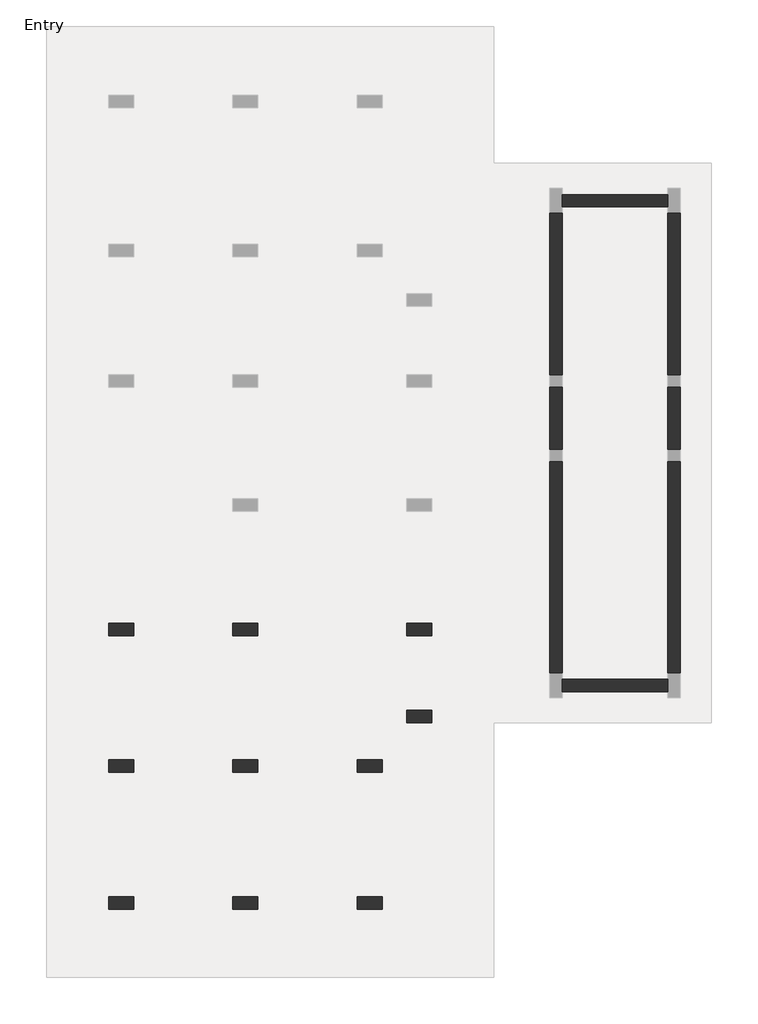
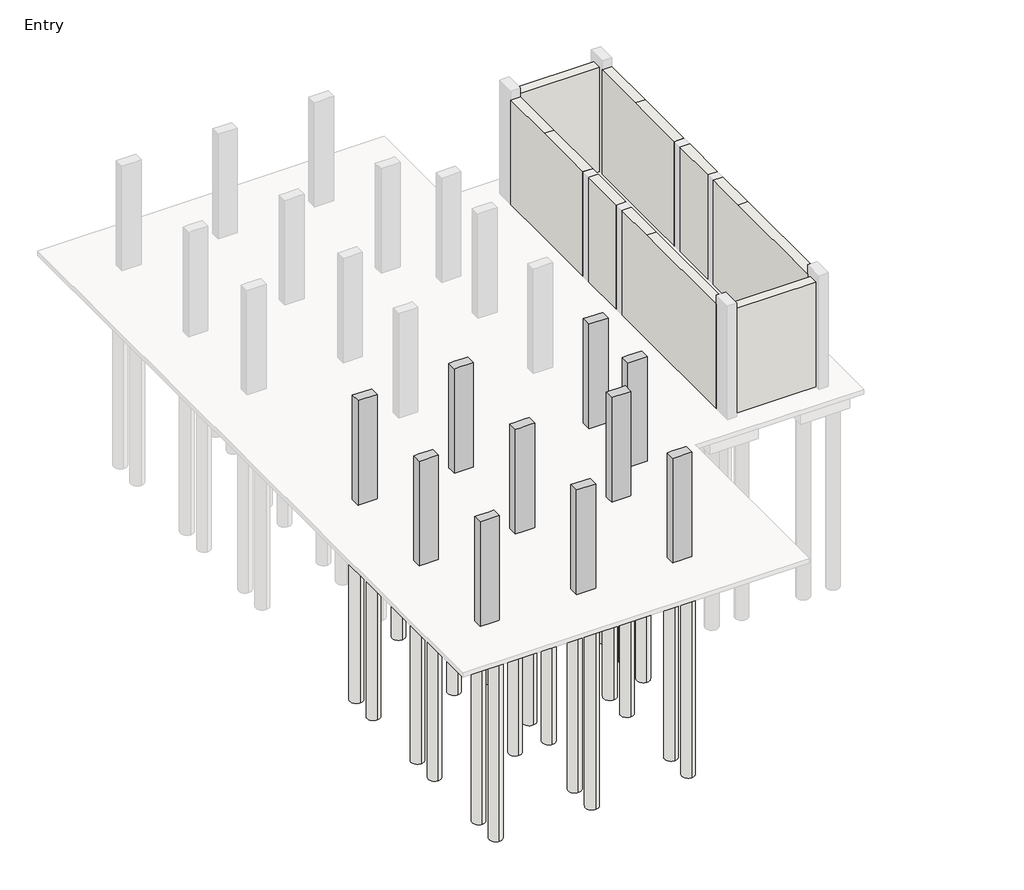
# One storey, part 1 of 3: 34 slabs, 10 columns, 8 walls.
"""IFC4 building model written with IfcOpenShell, lengths in millimetres."""

from ifc_helpers import new_model, si_unit, point, frame, frame_2d, origin, origin_with_axes, place, context, project, spatial, polyline, circle_curve, trimmed, segment, composite_curve, outline, extrude, faceted_brep, element, save

model = new_model("IFC4")

# Units and contexts
model_context = context("Model", 3, world=origin())
ifc_project = project(units=[si_unit("LENGTHUNIT", "METRE", prefix="MILLI")], contexts=[model_context])

# Site, building, storey
site = spatial("IfcSite", under=ifc_project)
building = spatial("IfcBuilding", under=site)
storey = spatial("IfcBuildingStorey", under=building, Name="Entry", Elevation=0.0)

# Columns
placement = place(None, origin())
element("IfcColumn", 1, ObjectType="Concrete-Rectangular-Column : 12 x 24", at=placement, inside=storey, context=model_context, shape_type="Brep", body=[
    faceted_brep([(-15967.1663981, -2679.8512152, 0.0), (-15357.5663981, -2679.8512152, 0.0), (-15357.5663981, -2984.6512152, 0.0), (-15967.1663981, -2984.6512152, 0.0), (-15967.1663981, -2679.8512152, 3505.2), (-15357.5663981, -2679.8512152, 3505.2), (-15357.5663981, -2679.8512152, 2895.6), (-15357.5663981, -2984.6512152, 3505.2), (-15357.5663981, -2984.6512152, 2895.6), (-15509.9663981, -2984.6512152, 3505.2), (-15814.7663981, -2984.6512152, 3505.2), (-15967.1663981, -2984.6512152, 3505.2)], [[[0, 1, 2, 3]], [[4, 5, 6, 1, 0]], [[5, 7, 8, 2, 1, 6]], [[7, 9, 10, 11, 3, 2, 8]], [[11, 4, 0, 3]], [[4, 11, 10, 9, 7, 5]]]),
])
element("IfcColumn", 2, ObjectType="Concrete-Rectangular-Column : 12 x 24", at=placement, inside=storey, context=model_context, shape_type="Brep", body=[
    faceted_brep([(-15967.1663981, -6032.6512152, 0.0), (-15357.5663981, -6032.6512152, 0.0), (-15357.5663981, -6337.4512152, 0.0), (-15967.1663981, -6337.4512152, 0.0), (-15967.1663981, -6032.6512152, 3505.2), (-15814.7663981, -6032.6512152, 3505.2), (-15509.9663981, -6032.6512152, 3505.2), (-15357.5663981, -6032.6512152, 3505.2), (-15357.5663981, -6032.6512152, 2895.6), (-15357.5663981, -6337.4512152, 3505.2), (-15357.5663981, -6337.4512152, 2895.6), (-15509.9663981, -6337.4512152, 3505.2), (-15814.7663981, -6337.4512152, 3505.2), (-15967.1663981, -6337.4512152, 3505.2)], [[[0, 1, 2, 3]], [[4, 5, 6, 7, 8, 1, 0]], [[7, 9, 10, 2, 1, 8]], [[9, 11, 12, 13, 3, 2, 10]], [[13, 4, 0, 3]], [[4, 13, 12, 11, 9, 7, 6, 5]]]),
])
element("IfcColumn", 3, ObjectType="Concrete-Rectangular-Column : 12 x 24", at=placement, inside=storey, context=model_context, shape_type="Brep", body=[
    faceted_brep([(-15967.1663981, -9385.4512152, 0.0), (-15357.5663981, -9385.4512152, 0.0), (-15357.5663981, -9690.2512152, 0.0), (-15967.1663981, -9690.2512152, 0.0), (-15967.1663981, -9385.4512152, 3505.2), (-15814.7663981, -9385.4512152, 3505.2), (-15509.9663981, -9385.4512152, 3505.2), (-15357.5663981, -9385.4512152, 3505.2), (-15357.5663981, -9385.4512152, 2895.6), (-15357.5663981, -9690.2512152, 3505.2), (-15357.5663981, -9690.2512152, 2895.6), (-15967.1663981, -9690.2512152, 3505.2)], [[[0, 1, 2, 3]], [[4, 5, 6, 7, 8, 1, 0]], [[7, 9, 10, 2, 1, 8]], [[9, 11, 3, 2, 10]], [[11, 4, 0, 3]], [[4, 11, 9, 7, 6, 5]]]),
])
element("IfcColumn", 4, ObjectType="Concrete-Rectangular-Column : 12 x 24", at=placement, inside=storey, context=model_context, shape_type="Brep", body=[
    faceted_brep([(-12919.1663981, -9385.4512152, 0.0), (-12309.5663981, -9385.4512152, 0.0), (-12309.5663981, -9690.2512152, 0.0), (-12919.1663981, -9690.2512152, 0.0), (-12919.1663981, -9385.4512152, 3505.2), (-12766.7663981, -9385.4512152, 3505.2), (-12461.9663981, -9385.4512152, 3505.2), (-12309.5663981, -9385.4512152, 3505.2), (-12309.5663981, -9385.4512152, 2895.6), (-12919.1663981, -9385.4512152, 2895.6), (-12309.5663981, -9690.2512152, 3505.2), (-12309.5663981, -9690.2512152, 2895.6), (-12919.1663981, -9690.2512152, 3505.2), (-12919.1663981, -9690.2512152, 2895.6)], [[[0, 1, 2, 3]], [[4, 5, 6, 7, 8, 1, 0, 9]], [[7, 10, 11, 2, 1, 8]], [[10, 12, 13, 3, 2, 11]], [[12, 4, 9, 0, 3, 13]], [[4, 12, 10, 7, 6, 5]]]),
])
element("IfcColumn", 5, ObjectType="Concrete-Rectangular-Column : 12 x 24", at=placement, inside=storey, context=model_context, shape_type="Brep", body=[
    faceted_brep([(-12919.1663981, -6032.6512152, 0.0), (-12309.5663981, -6032.6512152, 0.0), (-12309.5663981, -6337.4512152, 0.0), (-12919.1663981, -6337.4512152, 0.0), (-12919.1663981, -6032.6512152, 3505.2), (-12766.7663981, -6032.6512152, 3505.2), (-12461.9663981, -6032.6512152, 3505.2), (-12309.5663981, -6032.6512152, 3505.2), (-12309.5663981, -6032.6512152, 2895.6), (-12919.1663981, -6032.6512152, 2895.6), (-12309.5663981, -6337.4512152, 3505.2), (-12309.5663981, -6337.4512152, 2895.6), (-12461.9663981, -6337.4512152, 3505.2), (-12766.7663981, -6337.4512152, 3505.2), (-12919.1663981, -6337.4512152, 3505.2), (-12919.1663981, -6337.4512152, 2895.6)], [[[0, 1, 2, 3]], [[4, 5, 6, 7, 8, 1, 0, 9]], [[7, 10, 11, 2, 1, 8]], [[10, 12, 13, 14, 15, 3, 2, 11]], [[14, 4, 9, 0, 3, 15]], [[4, 14, 13, 12, 10, 7, 6, 5]]]),
])
element("IfcColumn", 6, ObjectType="Concrete-Rectangular-Column : 12 x 24", at=placement, inside=storey, context=model_context, shape_type="Brep", body=[
    faceted_brep([(-12919.1663981, -2679.8512152, 0.0), (-12309.5663981, -2679.8512152, 0.0), (-12309.5663981, -2984.6512152, 0.0), (-12919.1663981, -2984.6512152, 0.0), (-12919.1663981, -2679.8512152, 3505.2), (-12766.7663981, -2679.8512152, 3505.2), (-12461.9663981, -2679.8512152, 3505.2), (-12309.5663981, -2679.8512152, 3505.2), (-12309.5663981, -2679.8512152, 2895.6), (-12919.1663981, -2679.8512152, 2895.6), (-12309.5663981, -2984.6512152, 3505.2), (-12309.5663981, -2984.6512152, 2895.6), (-12461.9663981, -2984.6512152, 3505.2), (-12766.7663981, -2984.6512152, 3505.2), (-12919.1663981, -2984.6512152, 3505.2), (-12919.1663981, -2984.6512152, 2895.6)], [[[0, 1, 2, 3]], [[4, 5, 6, 7, 8, 1, 0, 9]], [[7, 10, 11, 2, 1, 8]], [[10, 12, 13, 14, 15, 3, 2, 11]], [[14, 4, 9, 0, 3, 15]], [[4, 14, 13, 12, 10, 7, 6, 5]]]),
])
element("IfcColumn", 7, ObjectType="Concrete-Rectangular-Column : 12 x 24", at=placement, inside=storey, context=model_context, shape_type="Brep", body=[
    faceted_brep([(-8651.9663981, -2679.8512152, 0.0), (-8042.3663981, -2679.8512152, 0.0), (-8042.3663981, -2984.6512152, 0.0), (-8651.9663981, -2984.6512152, 0.0), (-8651.9663981, -2679.8512152, 3505.2), (-8499.5663981, -2679.8512152, 3505.2), (-8194.7663981, -2679.8512152, 3505.2), (-8042.3663981, -2679.8512152, 3505.2), (-8651.9663981, -2679.8512152, 2895.6), (-8042.3663981, -2984.6512152, 3505.2), (-8194.7663981, -2984.6512152, 3505.2), (-8499.5663981, -2984.6512152, 3505.2), (-8651.9663981, -2984.6512152, 3505.2), (-8651.9663981, -2984.6512152, 2895.6)], [[[0, 1, 2, 3]], [[4, 5, 6, 7, 1, 0, 8]], [[7, 9, 2, 1]], [[9, 10, 11, 12, 13, 3, 2]], [[12, 4, 8, 0, 3, 13]], [[4, 12, 11, 10, 9, 7, 6, 5]]]),
])
element("IfcColumn", 8, ObjectType="Concrete-Rectangular-Column : 12 x 24", at=placement, inside=storey, context=model_context, shape_type="Brep", body=[
    faceted_brep([(-8651.9663981, -4813.4512152, 0.0), (-8042.3663981, -4813.4512152, 0.0), (-8042.3663981, -5118.2512152, 0.0), (-8651.9663981, -5118.2512152, 0.0), (-8651.9663981, -4813.4512152, 3505.2), (-8499.5663981, -4813.4512152, 3505.2), (-8194.7663981, -4813.4512152, 3505.2), (-8042.3663981, -4813.4512152, 3505.2), (-8651.9663981, -4813.4512152, 2895.6), (-8042.3663981, -5118.2512152, 3505.2), (-8651.9663981, -5118.2512152, 3505.2), (-8651.9663981, -5118.2512152, 2895.6)], [[[0, 1, 2, 3]], [[4, 5, 6, 7, 1, 0, 8]], [[7, 9, 2, 1]], [[9, 10, 11, 3, 2]], [[10, 4, 8, 0, 3, 11]], [[4, 10, 9, 7, 6, 5]]]),
])
element("IfcColumn", 9, ObjectType="Concrete-Rectangular-Column : 12 x 24", at=placement, inside=storey, context=model_context, shape_type="Brep", body=[
    faceted_brep([(-9261.5663981, -6337.4512152, 0.0), (-9871.1663981, -6337.4512152, 0.0), (-9871.1663981, -6032.6512152, 0.0), (-9261.5663981, -6032.6512152, 0.0), (-9261.5663981, -6337.4512152, 3505.2), (-9413.9663981, -6337.4512152, 3505.2), (-9718.7663981, -6337.4512152, 3505.2), (-9871.1663981, -6337.4512152, 3505.2), (-9871.1663981, -6337.4512152, 2895.6), (-9871.1663981, -6032.6512152, 3505.2), (-9871.1663981, -6032.6512152, 2895.6), (-9718.7663981, -6032.6512152, 3505.2), (-9413.9663981, -6032.6512152, 3505.2), (-9261.5663981, -6032.6512152, 3505.2)], [[[0, 1, 2, 3]], [[4, 5, 6, 7, 8, 1, 0]], [[7, 9, 10, 2, 1, 8]], [[9, 11, 12, 13, 3, 2, 10]], [[13, 4, 0, 3]], [[4, 13, 12, 11, 9, 7, 6, 5]]]),
])
element("IfcColumn", 10, ObjectType="Concrete-Rectangular-Column : 12 x 24", at=placement, inside=storey, context=model_context, shape_type="Brep", body=[
    faceted_brep([(-9261.5663981, -9690.2512152, 0.0), (-9871.1663981, -9690.2512152, 0.0), (-9871.1663981, -9385.4512152, 0.0), (-9261.5663981, -9385.4512152, 0.0), (-9261.5663981, -9690.2512152, 3505.2), (-9871.1663981, -9690.2512152, 3505.2), (-9871.1663981, -9690.2512152, 2895.6), (-9871.1663981, -9385.4512152, 3505.2), (-9871.1663981, -9385.4512152, 2895.6), (-9718.7663981, -9385.4512152, 3505.2), (-9413.9663981, -9385.4512152, 3505.2), (-9261.5663981, -9385.4512152, 3505.2)], [[[0, 1, 2, 3]], [[4, 5, 6, 1, 0]], [[5, 7, 8, 2, 1, 6]], [[7, 9, 10, 11, 3, 2, 8]], [[11, 4, 0, 3]], [[4, 11, 10, 9, 7, 5]]]),
])

# Slabs
element("IfcSlab", 11, ObjectType="Pile Cap-2 Pile : 31\"x61\"x35\"", at=placement, inside=storey, context=model_context, shape_type="SweptSolid", body=[
    extrude(outline(polyline([(-16068.7663981, -2057.5512152), (-15255.9663981, -2057.5512152), (-15255.9663981, -3606.9512152), (-16068.7663981, -3606.9512152), (-16068.7663981, -2057.5512152)])), frame((0.0, 0.0, -889.0), z_axis=(0.0, 0.0, 1.0), x_axis=(1.0, 0.0, 0.0)), (0.0, 0.0, 1.0), 736.6),
])
element("IfcSlab", 12, ObjectType="Pile Cap-2 Pile : 31\"x61\"x35\"", at=placement, inside=storey, context=model_context, shape_type="SweptSolid", body=[
    extrude(outline(polyline([(-16068.7663981, -5410.3512152), (-15255.9663981, -5410.3512152), (-15255.9663981, -6959.7512152), (-16068.7663981, -6959.7512152), (-16068.7663981, -5410.3512152)])), frame((0.0, 0.0, -889.0), z_axis=(0.0, 0.0, 1.0), x_axis=(1.0, 0.0, 0.0)), (0.0, 0.0, 1.0), 736.6),
])
element("IfcSlab", 13, ObjectType="Pile Cap-2 Pile : 31\"x61\"x35\"", at=placement, inside=storey, context=model_context, shape_type="SweptSolid", body=[
    extrude(outline(polyline([(-16068.7663981, -8763.1512152), (-15255.9663981, -8763.1512152), (-15255.9663981, -10312.5512152), (-16068.7663981, -10312.5512152), (-16068.7663981, -8763.1512152)])), frame((0.0, 0.0, -889.0), z_axis=(0.0, 0.0, 1.0), x_axis=(1.0, 0.0, 0.0)), (0.0, 0.0, 1.0), 736.6),
])
element("IfcSlab", 14, ObjectType="Pile Cap-2 Pile : 31\"x61\"x35\"", at=placement, inside=storey, context=model_context, shape_type="SweptSolid", body=[
    extrude(outline(polyline([(-13020.7663981, -8763.1512152), (-12207.9663981, -8763.1512152), (-12207.9663981, -10312.5512152), (-13020.7663981, -10312.5512152), (-13020.7663981, -8763.1512152)])), frame((0.0, 0.0, -889.0), z_axis=(0.0, 0.0, 1.0), x_axis=(1.0, 0.0, 0.0)), (0.0, 0.0, 1.0), 736.6),
])
element("IfcSlab", 15, ObjectType="Pile Cap-2 Pile : 31\"x61\"x35\"", at=placement, inside=storey, context=model_context, shape_type="SweptSolid", body=[
    extrude(outline(polyline([(-9159.9663981, -6959.7512152), (-9972.7663981, -6959.7512152), (-9972.7663981, -5410.3512152), (-9159.9663981, -5410.3512152), (-9159.9663981, -6959.7512152)])), frame((0.0, 0.0, -889.0), z_axis=(0.0, 0.0, 1.0), x_axis=(1.0, 0.0, 0.0)), (0.0, 0.0, 1.0), 736.6),
])
element("IfcSlab", 16, ObjectType="Pile Cap-2 Pile : 31\"x61\"x35\"", at=placement, inside=storey, context=model_context, shape_type="SweptSolid", body=[
    extrude(outline(polyline([(-9159.9663981, -10312.5512152), (-9972.7663981, -10312.5512152), (-9972.7663981, -8763.1512152), (-9159.9663981, -8763.1512152), (-9159.9663981, -10312.5512152)])), frame((0.0, 0.0, -889.0), z_axis=(0.0, 0.0, 1.0), x_axis=(1.0, 0.0, 0.0)), (0.0, 0.0, 1.0), 736.6),
])
element("IfcSlab", 17, ObjectType="Pile Cap-2 Pile : 31\"x61\"x35\"", at=placement, inside=storey, context=model_context, shape_type="SweptSolid", body=[
    extrude(outline(polyline([(-8753.5663981, -4191.1512152), (-7940.7663981, -4191.1512152), (-7940.7663981, -5740.5512152), (-8753.5663981, -5740.5512152), (-8753.5663981, -4191.1512152)])), frame((0.0, 0.0, -889.0), z_axis=(0.0, 0.0, 1.0), x_axis=(1.0, 0.0, 0.0)), (0.0, 0.0, 1.0), 736.6),
])
element("IfcSlab", 18, ObjectType="Pile Cap-4 Pile : 72\"x72\"x35\"", at=placement, inside=storey, context=model_context, shape_type="SweptSolid", body=[
    extrude(outline(polyline([(-13528.7663981, -1917.8512152), (-11699.9663981, -1917.8512152), (-11699.9663981, -3746.6512152), (-13528.7663981, -3746.6512152), (-13528.7663981, -1917.8512152)])), frame((0.0, 0.0, -889.0), z_axis=(0.0, 0.0, 1.0), x_axis=(1.0, 0.0, 0.0)), (0.0, 0.0, 1.0), 736.6),
])
element("IfcSlab", 19, ObjectType="Pile Cap-4 Pile : 72\"x72\"x35\"", at=placement, inside=storey, context=model_context, shape_type="SweptSolid", body=[
    extrude(outline(polyline([(-13528.7663981, -5270.6512152), (-11699.9663981, -5270.6512152), (-11699.9663981, -7099.4512152), (-13528.7663981, -7099.4512152), (-13528.7663981, -5270.6512152)])), frame((0.0, 0.0, -889.0), z_axis=(0.0, 0.0, 1.0), x_axis=(1.0, 0.0, 0.0)), (0.0, 0.0, 1.0), 736.6),
])
element("IfcSlab", 20, ObjectType="Pile-Steel Pipe : 16\" Diameter", at=placement, inside=storey, context=model_context, shape_type="SweptSolid", body=[
    extrude(outline(composite_curve([segment(trimmed(circle_curve(frame_2d((-13147.7663981, -317.6512152)), 203.2), [point((-13147.7663981, -520.8512152))], [point((-13147.7663981, -114.4512152))], False, "CARTESIAN"), True, "CONTINUOUS"), segment(trimmed(circle_curve(frame_2d((-13147.7663981, -317.6512152)), 203.2), [point((-13147.7663981, -114.4512152))], [point((-13147.7663981, -520.8512152))], False, "CARTESIAN"), True, "CONTINUOUS")], self_intersect=False)), frame((0.0, 0.0, -6985.0), z_axis=(0.0, 0.0, 1.0), x_axis=(1.0, 0.0, 0.0)), (0.0, 0.0, 1.0), 6096.0),
])
element("IfcSlab", 21, ObjectType="Pile-Steel Pipe : 16\" Diameter", at=placement, inside=storey, context=model_context, shape_type="SweptSolid", body=[
    extrude(outline(composite_curve([segment(trimmed(circle_curve(frame_2d((-12080.9663981, -317.6512152)), 203.2), [point((-12080.9663981, -520.8512152))], [point((-12080.9663981, -114.4512152))], False, "CARTESIAN"), True, "CONTINUOUS"), segment(trimmed(circle_curve(frame_2d((-12080.9663981, -317.6512152)), 203.2), [point((-12080.9663981, -114.4512152))], [point((-12080.9663981, -520.8512152))], False, "CARTESIAN"), True, "CONTINUOUS")], self_intersect=False)), frame((0.0, 0.0, -6985.0), z_axis=(0.0, 0.0, 1.0), x_axis=(1.0, 0.0, 0.0)), (0.0, 0.0, 1.0), 6096.0),
])
element("IfcSlab", 22, ObjectType="Pile-Steel Pipe : 16\" Diameter", at=placement, inside=storey, context=model_context, shape_type="SweptSolid", body=[
    extrude(outline(composite_curve([segment(trimmed(circle_curve(frame_2d((-13147.7663981, -3365.6512152)), 203.2), [point((-13147.7663981, -3568.8512152))], [point((-13147.7663981, -3162.4512152))], False, "CARTESIAN"), True, "CONTINUOUS"), segment(trimmed(circle_curve(frame_2d((-13147.7663981, -3365.6512152)), 203.2), [point((-13147.7663981, -3162.4512152))], [point((-13147.7663981, -3568.8512152))], False, "CARTESIAN"), True, "CONTINUOUS")], self_intersect=False)), frame((0.0, 0.0, -6985.0), z_axis=(0.0, 0.0, 1.0), x_axis=(1.0, 0.0, 0.0)), (0.0, 0.0, 1.0), 6096.0),
])
element("IfcSlab", 23, ObjectType="Pile-Steel Pipe : 16\" Diameter", at=placement, inside=storey, context=model_context, shape_type="SweptSolid", body=[
    extrude(outline(composite_curve([segment(trimmed(circle_curve(frame_2d((-12080.9663981, -3365.6512152)), 203.2), [point((-12080.9663981, -3568.8512152))], [point((-12080.9663981, -3162.4512152))], False, "CARTESIAN"), True, "CONTINUOUS"), segment(trimmed(circle_curve(frame_2d((-12080.9663981, -3365.6512152)), 203.2), [point((-12080.9663981, -3162.4512152))], [point((-12080.9663981, -3568.8512152))], False, "CARTESIAN"), True, "CONTINUOUS")], self_intersect=False)), frame((0.0, 0.0, -6985.0), z_axis=(0.0, 0.0, 1.0), x_axis=(1.0, 0.0, 0.0)), (0.0, 0.0, 1.0), 6096.0),
])
element("IfcSlab", 24, ObjectType="Pile-Steel Pipe : 16\" Diameter", at=placement, inside=storey, context=model_context, shape_type="SweptSolid", body=[
    extrude(outline(composite_curve([segment(trimmed(circle_curve(frame_2d((-12080.9663981, -2298.8512152)), 203.2), [point((-12080.9663981, -2502.0512152))], [point((-12080.9663981, -2095.6512152))], False, "CARTESIAN"), True, "CONTINUOUS"), segment(trimmed(circle_curve(frame_2d((-12080.9663981, -2298.8512152)), 203.2), [point((-12080.9663981, -2095.6512152))], [point((-12080.9663981, -2502.0512152))], False, "CARTESIAN"), True, "CONTINUOUS")], self_intersect=False)), frame((0.0, 0.0, -6985.0), z_axis=(0.0, 0.0, 1.0), x_axis=(1.0, 0.0, 0.0)), (0.0, 0.0, 1.0), 6096.0),
])
element("IfcSlab", 25, ObjectType="Pile-Steel Pipe : 16\" Diameter", at=placement, inside=storey, context=model_context, shape_type="SweptSolid", body=[
    extrude(outline(composite_curve([segment(trimmed(circle_curve(frame_2d((-13147.7663981, -2298.8512152)), 203.2), [point((-13147.7663981, -2502.0512152))], [point((-13147.7663981, -2095.6512152))], False, "CARTESIAN"), True, "CONTINUOUS"), segment(trimmed(circle_curve(frame_2d((-13147.7663981, -2298.8512152)), 203.2), [point((-13147.7663981, -2095.6512152))], [point((-13147.7663981, -2502.0512152))], False, "CARTESIAN"), True, "CONTINUOUS")], self_intersect=False)), frame((0.0, 0.0, -6985.0), z_axis=(0.0, 0.0, 1.0), x_axis=(1.0, 0.0, 0.0)), (0.0, 0.0, 1.0), 6096.0),
])
element("IfcSlab", 26, ObjectType="Pile-Steel Pipe : 16\" Diameter", at=placement, inside=storey, context=model_context, shape_type="SweptSolid", body=[
    extrude(outline(composite_curve([segment(trimmed(circle_curve(frame_2d((-13147.7663981, -6718.4512152)), 203.2), [point((-13147.7663981, -6921.6512152))], [point((-13147.7663981, -6515.2512152))], False, "CARTESIAN"), True, "CONTINUOUS"), segment(trimmed(circle_curve(frame_2d((-13147.7663981, -6718.4512152)), 203.2), [point((-13147.7663981, -6515.2512152))], [point((-13147.7663981, -6921.6512152))], False, "CARTESIAN"), True, "CONTINUOUS")], self_intersect=False)), frame((0.0, 0.0, -6985.0), z_axis=(0.0, 0.0, 1.0), x_axis=(1.0, 0.0, 0.0)), (0.0, 0.0, 1.0), 6096.0),
])
element("IfcSlab", 27, ObjectType="Pile-Steel Pipe : 16\" Diameter", at=placement, inside=storey, context=model_context, shape_type="SweptSolid", body=[
    extrude(outline(composite_curve([segment(trimmed(circle_curve(frame_2d((-12080.9663981, -6718.4512152)), 203.2), [point((-12080.9663981, -6921.6512152))], [point((-12080.9663981, -6515.2512152))], False, "CARTESIAN"), True, "CONTINUOUS"), segment(trimmed(circle_curve(frame_2d((-12080.9663981, -6718.4512152)), 203.2), [point((-12080.9663981, -6515.2512152))], [point((-12080.9663981, -6921.6512152))], False, "CARTESIAN"), True, "CONTINUOUS")], self_intersect=False)), frame((0.0, 0.0, -6985.0), z_axis=(0.0, 0.0, 1.0), x_axis=(1.0, 0.0, 0.0)), (0.0, 0.0, 1.0), 6096.0),
])
element("IfcSlab", 28, ObjectType="Pile-Steel Pipe : 16\" Diameter", at=placement, inside=storey, context=model_context, shape_type="SweptSolid", body=[
    extrude(outline(composite_curve([segment(trimmed(circle_curve(frame_2d((-12080.9663981, -5651.6512152)), 203.2), [point((-12080.9663981, -5854.8512152))], [point((-12080.9663981, -5448.4512152))], False, "CARTESIAN"), True, "CONTINUOUS"), segment(trimmed(circle_curve(frame_2d((-12080.9663981, -5651.6512152)), 203.2), [point((-12080.9663981, -5448.4512152))], [point((-12080.9663981, -5854.8512152))], False, "CARTESIAN"), True, "CONTINUOUS")], self_intersect=False)), frame((0.0, 0.0, -6985.0), z_axis=(0.0, 0.0, 1.0), x_axis=(1.0, 0.0, 0.0)), (0.0, 0.0, 1.0), 6096.0),
])
element("IfcSlab", 29, ObjectType="Pile-Steel Pipe : 16\" Diameter", at=placement, inside=storey, context=model_context, shape_type="SweptSolid", body=[
    extrude(outline(composite_curve([segment(trimmed(circle_curve(frame_2d((-13147.7663981, -5651.6512152)), 203.2), [point((-13147.7663981, -5854.8512152))], [point((-13147.7663981, -5448.4512152))], False, "CARTESIAN"), True, "CONTINUOUS"), segment(trimmed(circle_curve(frame_2d((-13147.7663981, -5651.6512152)), 203.2), [point((-13147.7663981, -5448.4512152))], [point((-13147.7663981, -5854.8512152))], False, "CARTESIAN"), True, "CONTINUOUS")], self_intersect=False)), frame((0.0, 0.0, -6985.0), z_axis=(0.0, 0.0, 1.0), x_axis=(1.0, 0.0, 0.0)), (0.0, 0.0, 1.0), 6096.0),
])
element("IfcSlab", 30, ObjectType="Pile-Steel Pipe : 16\" Diameter", at=placement, inside=storey, context=model_context, shape_type="SweptSolid", body=[
    extrude(outline(composite_curve([segment(trimmed(circle_curve(frame_2d((-15662.3663981, -3302.1512152)), 203.2), [point((-15662.3663981, -3505.3512152))], [point((-15662.3663981, -3098.9512152))], False, "CARTESIAN"), True, "CONTINUOUS"), segment(trimmed(circle_curve(frame_2d((-15662.3663981, -3302.1512152)), 203.2), [point((-15662.3663981, -3098.9512152))], [point((-15662.3663981, -3505.3512152))], False, "CARTESIAN"), True, "CONTINUOUS")], self_intersect=False)), frame((0.0, 0.0, -6985.0), z_axis=(0.0, 0.0, 1.0), x_axis=(1.0, 0.0, 0.0)), (0.0, 0.0, 1.0), 6096.0),
])
element("IfcSlab", 31, ObjectType="Pile-Steel Pipe : 16\" Diameter", at=placement, inside=storey, context=model_context, shape_type="SweptSolid", body=[
    extrude(outline(composite_curve([segment(trimmed(circle_curve(frame_2d((-15662.3663981, -2362.3512152)), 203.2), [point((-15662.3663981, -2565.5512152))], [point((-15662.3663981, -2159.1512152))], False, "CARTESIAN"), True, "CONTINUOUS"), segment(trimmed(circle_curve(frame_2d((-15662.3663981, -2362.3512152)), 203.2), [point((-15662.3663981, -2159.1512152))], [point((-15662.3663981, -2565.5512152))], False, "CARTESIAN"), True, "CONTINUOUS")], self_intersect=False)), frame((0.0, 0.0, -6985.0), z_axis=(0.0, 0.0, 1.0), x_axis=(1.0, 0.0, 0.0)), (0.0, 0.0, 1.0), 6096.0),
])
element("IfcSlab", 32, ObjectType="Pile-Steel Pipe : 16\" Diameter", at=placement, inside=storey, context=model_context, shape_type="SweptSolid", body=[
    extrude(outline(composite_curve([segment(trimmed(circle_curve(frame_2d((-15662.3663981, -6654.9512152)), 203.2), [point((-15662.3663981, -6858.1512152))], [point((-15662.3663981, -6451.7512152))], False, "CARTESIAN"), True, "CONTINUOUS"), segment(trimmed(circle_curve(frame_2d((-15662.3663981, -6654.9512152)), 203.2), [point((-15662.3663981, -6451.7512152))], [point((-15662.3663981, -6858.1512152))], False, "CARTESIAN"), True, "CONTINUOUS")], self_intersect=False)), frame((0.0, 0.0, -6985.0), z_axis=(0.0, 0.0, 1.0), x_axis=(1.0, 0.0, 0.0)), (0.0, 0.0, 1.0), 6096.0),
])
element("IfcSlab", 33, ObjectType="Pile-Steel Pipe : 16\" Diameter", at=placement, inside=storey, context=model_context, shape_type="SweptSolid", body=[
    extrude(outline(composite_curve([segment(trimmed(circle_curve(frame_2d((-15662.3663981, -5715.1512152)), 203.2), [point((-15662.3663981, -5918.3512152))], [point((-15662.3663981, -5511.9512152))], False, "CARTESIAN"), True, "CONTINUOUS"), segment(trimmed(circle_curve(frame_2d((-15662.3663981, -5715.1512152)), 203.2), [point((-15662.3663981, -5511.9512152))], [point((-15662.3663981, -5918.3512152))], False, "CARTESIAN"), True, "CONTINUOUS")], self_intersect=False)), frame((0.0, 0.0, -6985.0), z_axis=(0.0, 0.0, 1.0), x_axis=(1.0, 0.0, 0.0)), (0.0, 0.0, 1.0), 6096.0),
])
element("IfcSlab", 34, ObjectType="Pile-Steel Pipe : 16\" Diameter", at=placement, inside=storey, context=model_context, shape_type="SweptSolid", body=[
    extrude(outline(composite_curve([segment(trimmed(circle_curve(frame_2d((-15662.3663981, -10007.7512152)), 203.2), [point((-15662.3663981, -10210.9512152))], [point((-15662.3663981, -9804.5512152))], False, "CARTESIAN"), True, "CONTINUOUS"), segment(trimmed(circle_curve(frame_2d((-15662.3663981, -10007.7512152)), 203.2), [point((-15662.3663981, -9804.5512152))], [point((-15662.3663981, -10210.9512152))], False, "CARTESIAN"), True, "CONTINUOUS")], self_intersect=False)), frame((0.0, 0.0, -6985.0), z_axis=(0.0, 0.0, 1.0), x_axis=(1.0, 0.0, 0.0)), (0.0, 0.0, 1.0), 6096.0),
])
element("IfcSlab", 35, ObjectType="Pile-Steel Pipe : 16\" Diameter", at=placement, inside=storey, context=model_context, shape_type="SweptSolid", body=[
    extrude(outline(composite_curve([segment(trimmed(circle_curve(frame_2d((-15662.3663981, -9067.9512152)), 203.2), [point((-15662.3663981, -9271.1512152))], [point((-15662.3663981, -8864.7512152))], False, "CARTESIAN"), True, "CONTINUOUS"), segment(trimmed(circle_curve(frame_2d((-15662.3663981, -9067.9512152)), 203.2), [point((-15662.3663981, -8864.7512152))], [point((-15662.3663981, -9271.1512152))], False, "CARTESIAN"), True, "CONTINUOUS")], self_intersect=False)), frame((0.0, 0.0, -6985.0), z_axis=(0.0, 0.0, 1.0), x_axis=(1.0, 0.0, 0.0)), (0.0, 0.0, 1.0), 6096.0),
])
element("IfcSlab", 36, ObjectType="Pile-Steel Pipe : 16\" Diameter", at=placement, inside=storey, context=model_context, shape_type="SweptSolid", body=[
    extrude(outline(composite_curve([segment(trimmed(circle_curve(frame_2d((-12614.3663981, -10007.7512152)), 203.2), [point((-12614.3663981, -10210.9512152))], [point((-12614.3663981, -9804.5512152))], False, "CARTESIAN"), True, "CONTINUOUS"), segment(trimmed(circle_curve(frame_2d((-12614.3663981, -10007.7512152)), 203.2), [point((-12614.3663981, -9804.5512152))], [point((-12614.3663981, -10210.9512152))], False, "CARTESIAN"), True, "CONTINUOUS")], self_intersect=False)), frame((0.0, 0.0, -6985.0), z_axis=(0.0, 0.0, 1.0), x_axis=(1.0, 0.0, 0.0)), (0.0, 0.0, 1.0), 6096.0),
])
element("IfcSlab", 37, ObjectType="Pile-Steel Pipe : 16\" Diameter", at=placement, inside=storey, context=model_context, shape_type="SweptSolid", body=[
    extrude(outline(composite_curve([segment(trimmed(circle_curve(frame_2d((-12614.3663981, -9067.9512152)), 203.2), [point((-12614.3663981, -9271.1512152))], [point((-12614.3663981, -8864.7512152))], False, "CARTESIAN"), True, "CONTINUOUS"), segment(trimmed(circle_curve(frame_2d((-12614.3663981, -9067.9512152)), 203.2), [point((-12614.3663981, -8864.7512152))], [point((-12614.3663981, -9271.1512152))], False, "CARTESIAN"), True, "CONTINUOUS")], self_intersect=False)), frame((0.0, 0.0, -6985.0), z_axis=(0.0, 0.0, 1.0), x_axis=(1.0, 0.0, 0.0)), (0.0, 0.0, 1.0), 6096.0),
])
element("IfcSlab", 38, ObjectType="Pile-Steel Pipe : 16\" Diameter", at=placement, inside=storey, context=model_context, shape_type="SweptSolid", body=[
    extrude(outline(composite_curve([segment(trimmed(circle_curve(frame_2d((-9566.3663981, -5715.1512152)), 203.2), [point((-9566.3663981, -5511.9512152))], [point((-9566.3663981, -5918.3512152))], False, "CARTESIAN"), True, "CONTINUOUS"), segment(trimmed(circle_curve(frame_2d((-9566.3663981, -5715.1512152)), 203.2), [point((-9566.3663981, -5918.3512152))], [point((-9566.3663981, -5511.9512152))], False, "CARTESIAN"), True, "CONTINUOUS")], self_intersect=False)), frame((0.0, 0.0, -6985.0), z_axis=(0.0, 0.0, 1.0), x_axis=(1.0, 0.0, 0.0)), (0.0, 0.0, 1.0), 6096.0),
])
element("IfcSlab", 39, ObjectType="Pile-Steel Pipe : 16\" Diameter", at=placement, inside=storey, context=model_context, shape_type="SweptSolid", body=[
    extrude(outline(composite_curve([segment(trimmed(circle_curve(frame_2d((-9566.3663981, -6654.9512152)), 203.2), [point((-9566.3663981, -6451.7512152))], [point((-9566.3663981, -6858.1512152))], False, "CARTESIAN"), True, "CONTINUOUS"), segment(trimmed(circle_curve(frame_2d((-9566.3663981, -6654.9512152)), 203.2), [point((-9566.3663981, -6858.1512152))], [point((-9566.3663981, -6451.7512152))], False, "CARTESIAN"), True, "CONTINUOUS")], self_intersect=False)), frame((0.0, 0.0, -6985.0), z_axis=(0.0, 0.0, 1.0), x_axis=(1.0, 0.0, 0.0)), (0.0, 0.0, 1.0), 6096.0),
])
element("IfcSlab", 40, ObjectType="Pile-Steel Pipe : 16\" Diameter", at=placement, inside=storey, context=model_context, shape_type="SweptSolid", body=[
    extrude(outline(composite_curve([segment(trimmed(circle_curve(frame_2d((-9566.3663981, -9067.9512152)), 203.2), [point((-9566.3663981, -8864.7512152))], [point((-9566.3663981, -9271.1512152))], False, "CARTESIAN"), True, "CONTINUOUS"), segment(trimmed(circle_curve(frame_2d((-9566.3663981, -9067.9512152)), 203.2), [point((-9566.3663981, -9271.1512152))], [point((-9566.3663981, -8864.7512152))], False, "CARTESIAN"), True, "CONTINUOUS")], self_intersect=False)), frame((0.0, 0.0, -6985.0), z_axis=(0.0, 0.0, 1.0), x_axis=(1.0, 0.0, 0.0)), (0.0, 0.0, 1.0), 6096.0),
])
element("IfcSlab", 41, ObjectType="Pile-Steel Pipe : 16\" Diameter", at=placement, inside=storey, context=model_context, shape_type="SweptSolid", body=[
    extrude(outline(composite_curve([segment(trimmed(circle_curve(frame_2d((-9566.3663981, -10007.7512152)), 203.2), [point((-9566.3663981, -9804.5512152))], [point((-9566.3663981, -10210.9512152))], False, "CARTESIAN"), True, "CONTINUOUS"), segment(trimmed(circle_curve(frame_2d((-9566.3663981, -10007.7512152)), 203.2), [point((-9566.3663981, -10210.9512152))], [point((-9566.3663981, -9804.5512152))], False, "CARTESIAN"), True, "CONTINUOUS")], self_intersect=False)), frame((0.0, 0.0, -6985.0), z_axis=(0.0, 0.0, 1.0), x_axis=(1.0, 0.0, 0.0)), (0.0, 0.0, 1.0), 6096.0),
])
element("IfcSlab", 42, ObjectType="Pile-Steel Pipe : 16\" Diameter", at=placement, inside=storey, context=model_context, shape_type="SweptSolid", body=[
    extrude(outline(composite_curve([segment(trimmed(circle_curve(frame_2d((-8347.1663981, -3302.1512152)), 203.2), [point((-8347.1663981, -3505.3512152))], [point((-8347.1663981, -3098.9512152))], False, "CARTESIAN"), True, "CONTINUOUS"), segment(trimmed(circle_curve(frame_2d((-8347.1663981, -3302.1512152)), 203.2), [point((-8347.1663981, -3098.9512152))], [point((-8347.1663981, -3505.3512152))], False, "CARTESIAN"), True, "CONTINUOUS")], self_intersect=False)), frame((0.0, 0.0, -6985.0), z_axis=(0.0, 0.0, 1.0), x_axis=(1.0, 0.0, 0.0)), (0.0, 0.0, 1.0), 6096.0),
])
element("IfcSlab", 43, ObjectType="Pile-Steel Pipe : 16\" Diameter", at=placement, inside=storey, context=model_context, shape_type="SweptSolid", body=[
    extrude(outline(composite_curve([segment(trimmed(circle_curve(frame_2d((-8347.1663981, -5435.7512152)), 203.2), [point((-8347.1663981, -5638.9512152))], [point((-8347.1663981, -5232.5512152))], False, "CARTESIAN"), True, "CONTINUOUS"), segment(trimmed(circle_curve(frame_2d((-8347.1663981, -5435.7512152)), 203.2), [point((-8347.1663981, -5232.5512152))], [point((-8347.1663981, -5638.9512152))], False, "CARTESIAN"), True, "CONTINUOUS")], self_intersect=False)), frame((0.0, 0.0, -6985.0), z_axis=(0.0, 0.0, 1.0), x_axis=(1.0, 0.0, 0.0)), (0.0, 0.0, 1.0), 6096.0),
])
element("IfcSlab", 44, ObjectType="Pile-Steel Pipe : 16\" Diameter", at=placement, inside=storey, context=model_context, shape_type="SweptSolid", body=[
    extrude(outline(composite_curve([segment(trimmed(circle_curve(frame_2d((-8347.1663981, -4495.9512152)), 203.2), [point((-8347.1663981, -4699.1512152))], [point((-8347.1663981, -4292.7512152))], False, "CARTESIAN"), True, "CONTINUOUS"), segment(trimmed(circle_curve(frame_2d((-8347.1663981, -4495.9512152)), 203.2), [point((-8347.1663981, -4292.7512152))], [point((-8347.1663981, -4699.1512152))], False, "CARTESIAN"), True, "CONTINUOUS")], self_intersect=False)), frame((0.0, 0.0, -6985.0), z_axis=(0.0, 0.0, 1.0), x_axis=(1.0, 0.0, 0.0)), (0.0, 0.0, 1.0), 6096.0),
])

# Walls
element("IfcWall", 45, ObjectType="Core-Shaft - 12\" Concrete", at=placement, inside=storey, context=model_context, shape_type="SweptSolid", body=[
    extrude(outline(polyline([(-2251.1663981, 7530.9487848), (-4841.9663981, 7530.9487848), (-4841.9663981, 7835.7487848), (-2251.1663981, 7835.7487848), (-2251.1663981, 7530.9487848)])), origin_with_axes(), (0.0, 0.0, 1.0), 3505.2),
])
element("IfcWall", 46, ObjectType="Core-Shaft - 12\" Concrete", at=placement, inside=storey, context=model_context, shape_type="SweptSolid", body=[
    extrude(outline(polyline([(7378.5487848, 0.0), (3416.1487848, 0.0), (3416.1487848, 3505.2), (5549.7487848, 3505.2), (7378.5487848, 3505.2), (7378.5487848, 0.0)])), frame((-2251.1663981, 0.0, 0.0), z_axis=(1.0, 0.0, 0.0), x_axis=(0.0, 1.0, 0.0)), (0.0, 0.0, 1.0), 304.8),
])
element("IfcWall", 47, ObjectType="Core-Shaft - 12\" Concrete", at=placement, inside=storey, context=model_context, shape_type="SweptSolid", body=[
    extrude(outline(polyline([(-2251.1663981, 1587.3487848), (-2251.1663981, 3111.3487848), (-1946.3663981, 3111.3487848), (-1946.3663981, 1587.3487848), (-2251.1663981, 1587.3487848)])), origin_with_axes(), (0.0, 0.0, 1.0), 3505.2),
])
element("IfcWall", 48, ObjectType="Core-Shaft - 12\" Concrete", at=placement, inside=storey, context=model_context, shape_type="SweptSolid", body=[
    extrude(outline(polyline([(1282.5487848, 0.0), (-3899.0512152, 0.0), (-3899.0512152, 3505.2), (-89.0512152, 3505.2), (1282.5487848, 3505.2), (1282.5487848, 0.0)])), frame((-2251.1663981, 0.0, 0.0), z_axis=(1.0, 0.0, 0.0), x_axis=(0.0, 1.0, 0.0)), (0.0, 0.0, 1.0), 304.8),
])
element("IfcWall", 49, ObjectType="Core-Shaft - 12\" Concrete", at=placement, inside=storey, context=model_context, shape_type="SweptSolid", body=[
    extrude(outline(polyline([(7378.5487848, 0.0), (3416.1487848, 0.0), (3416.1487848, 3505.2), (5549.7487848, 3505.2), (7378.5487848, 3505.2), (7378.5487848, 0.0)])), frame((-5146.7663981, 0.0, 0.0), z_axis=(1.0, 0.0, 0.0), x_axis=(0.0, 1.0, 0.0)), (0.0, 0.0, 1.0), 304.8),
])
element("IfcWall", 50, ObjectType="Core-Shaft - 12\" Concrete", at=placement, inside=storey, context=model_context, shape_type="SweptSolid", body=[
    extrude(outline(polyline([(-5146.7663981, 1587.3487848), (-5146.7663981, 3111.3487848), (-4841.9663981, 3111.3487848), (-4841.9663981, 1587.3487848), (-5146.7663981, 1587.3487848)])), origin_with_axes(), (0.0, 0.0, 1.0), 3505.2),
])
element("IfcWall", 51, ObjectType="Core-Shaft - 12\" Concrete", at=placement, inside=storey, context=model_context, shape_type="SweptSolid", body=[
    extrude(outline(polyline([(1282.5487848, 0.0), (-3899.0512152, 0.0), (-3899.0512152, 3505.2), (-89.0512152, 3505.2), (1282.5487848, 3505.2), (1282.5487848, 0.0)])), frame((-5146.7663981, 0.0, 0.0), z_axis=(1.0, 0.0, 0.0), x_axis=(0.0, 1.0, 0.0)), (0.0, 0.0, 1.0), 304.8),
])
element("IfcWall", 52, ObjectType="Core-Shaft - 12\" Concrete", at=placement, inside=storey, context=model_context, shape_type="SweptSolid", body=[
    extrude(outline(polyline([(-2251.1663981, -4356.2512152), (-4841.9663981, -4356.2512152), (-4841.9663981, -4051.4512152), (-2251.1663981, -4051.4512152), (-2251.1663981, -4356.2512152)])), origin_with_axes(), (0.0, 0.0, 1.0), 3505.2),
])

save(model, "model.ifc")
